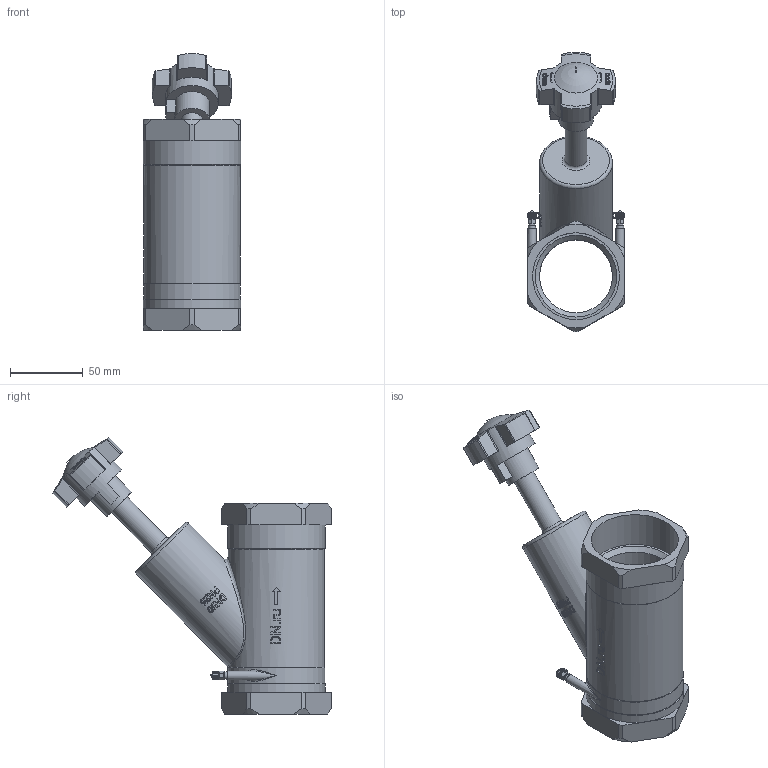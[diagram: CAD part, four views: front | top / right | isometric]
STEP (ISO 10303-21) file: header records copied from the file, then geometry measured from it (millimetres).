
FILE_DESCRIPTION(('STEP AP242'), '1');
FILE_NAME('VB0000P-T Êëàïàí áàëàíñèðîâî÷íûé DN.ru Äó50 Ðó25', '2026-04-26T18:05:08', ('R2D2'), (''), 'C3D Converter', 'C3D Toolkit', '');
FILE_SCHEMA(('AP242_MANAGED_MODEL_BASED_3D_ENGINEERING_MIM_LF { 1 0 10303 442 1 1 4 }'));
Length unit declared in the file: millimetre
Products named in the file (1): VB0000P-T
Bounding box: 67 x 191.39 x 189.95 mm (x, y, z)
Volume: 381354.4 mm3; surface area: 80553.3 mm2
Topology: 1 solids, 2 shells, 726 faces, 1986 edges, 1309 vertices
Faces by surface type: plane 315, extrusion 271, cylinder 91, cone 22, revolution 17, bspline 5, torus 3, sphere 2
Full cylindrical faces by diameter (mm): 2 x2, 4 x6, 5 x2, 6 x2, 15 x1, 24 x1, 36 x1, 50 x2, 50.5 x1, 59.61 x2, 66 x1, 66.5 x1, 67 x2
Entity records: 46624 total; most frequent: CARTESIAN_POINT 24168, ORIENTED_EDGE 3884, DIRECTION 2428, EDGE_CURVE 1942, VERTEX_POINT 1306, VECTOR 1115, B_SPLINE_CURVE_WITH_KNOTS 1030, LINE 844
